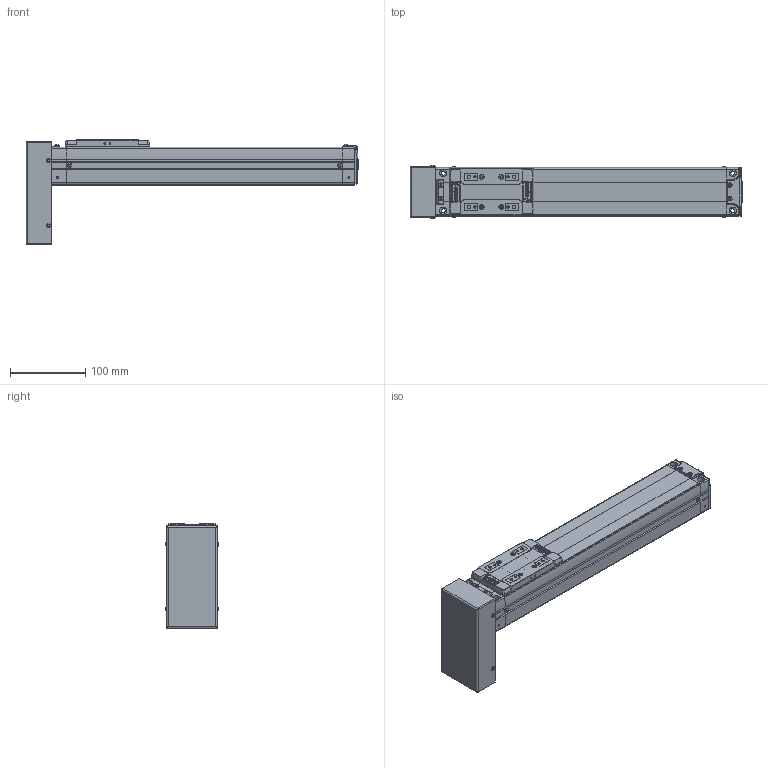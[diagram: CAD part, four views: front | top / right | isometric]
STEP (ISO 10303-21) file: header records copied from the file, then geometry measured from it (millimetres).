
FILE_DESCRIPTION(('STEP AP214'),'1');
FILE_NAME('Z:/Web/3D/SAN65/STP/SAN65ㅁㅁ-250PB.stp','2012-06-14T04:30:58',(' '),(' '),'Spatial InterOp 3D',' ',' ');
FILE_SCHEMA(('automotive_design'));
Length unit declared in the file: metre
Products named in the file (34): SAN65__-250; BODY-SAN65; REAR-SAN65; RRCV-SAN65; 스크루 : Round - M3.0 x 6.0; FRONT-SAN65; SHAFT-SAN65; RN8 x 0.75; SSFX-SAN65; SLIDE-SAN65; SLCV-SAN65; 스크루 : Countersunk - M3.0 x 6.0; ____198; PB; BTCV-SAN65; M3.0 x 6.0
Assembly tree (33 placements, depth 4):
  ____198
    SAN65__-250
      BODY-SAN65
      REAR-SAN65
        REAR-SAN65
        RRCV-SAN65
        스크루 : Round - M3.0 x 6.0
        스크루 : Round - M3.0 x 6.0
        스크루 : Round - M3.0 x 6.0
        스크루 : Round - M3.0 x 6.0
        스크루 : Round - M3.0 x 6.0
        스크루 : Round - M3.0 x 6.0
      FRONT-SAN65
        FRONT-SAN65
        SHAFT-SAN65
        RN8 x 0.75
        SSFX-SAN65
        스크루 : Round - M3.0 x 6.0
        스크루 : Round - M3.0 x 6.0
        스크루 : Round - M3.0 x 6.0
        스크루 : Round - M3.0 x 6.0
      SLIDE-SAN65
        SLIDE-SAN65
        SLCV-SAN65
        스크루 : Countersunk - M3.0 x 6.0
        스크루 : Countersunk - M3.0 x 6.0
        스크루 : Countersunk - M3.0 x 6.0
        스크루 : Countersunk - M3.0 x 6.0
    PB
      BTCV-SAN65
      M3.0 x 6.0
      M3.0 x 6.0
      M3.0 x 6.0
      M3.0 x 6.0
Bounding box: 440.15 x 71.13 x 138.5 mm (x, y, z)
Volume: 1606059.3 mm3; surface area: 206458.5 mm2
Topology: 28 solids, 28 shells, 1456 faces, 3724 edges, 2422 vertices
Faces by surface type: plane 891, cylinder 414, cone 77, bspline 30, sphere 26, torus 15, extrusion 3
Full cylindrical faces by diameter (mm): 0.571 x2, 0.706 x1, 1.727 x2, 2.132 x1, 2.2 x4, 2.5 x9, 2.528 x4, 3 x6, 3.121 x2, 3.3 x4, 3.4 x8, 3.5 x6, 4.2 x24, 4.849 x4, 5 x3, 5.5 x4, 5.987 x2, 6 x6, 6.35 x1, 7 x1, 8 x4, 9.5 x4, 13 x1, 15 x1, 19 x1, 26 x1, 38.1 x1
Entity records: 59556 total; most frequent: CARTESIAN_POINT 12302, DIRECTION 7307, ORIENTED_EDGE 6892, EDGE_CURVE 3446, AXIS2_PLACEMENT_3D 2489, VERTEX_POINT 2368, VECTOR 2329, LINE 2326
